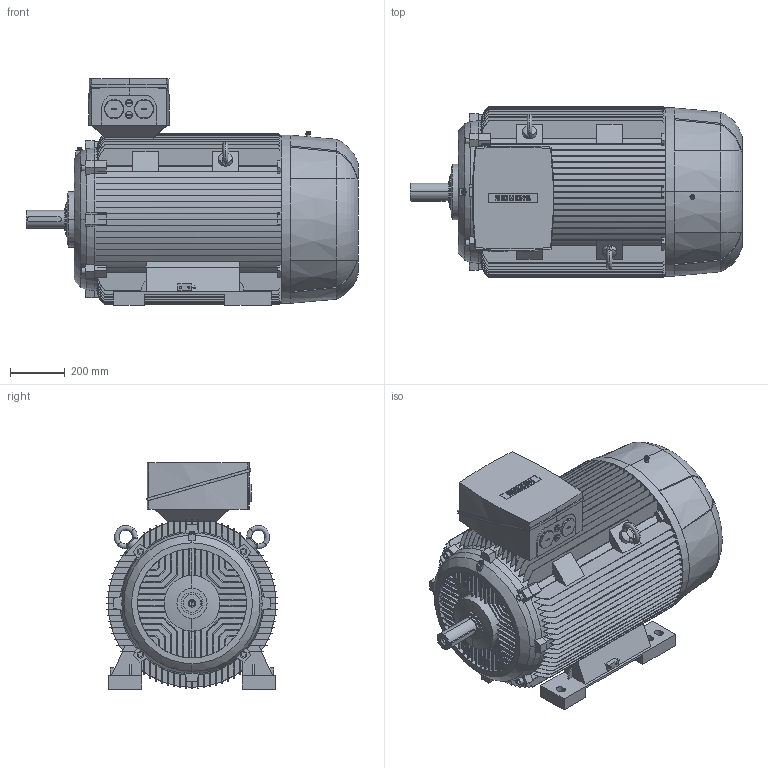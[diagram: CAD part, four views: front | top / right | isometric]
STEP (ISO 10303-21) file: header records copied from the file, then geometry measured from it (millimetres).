
FILE_DESCRIPTION(('STEP AP214'),'1');
FILE_NAME('cctmp_F0877850-D0D3-4E7F-98B5-DB456A6857BC_2020_6_30_13_7_34_39..stp','2020-06-30T11:07:35',('SIEMENS A&D'),('CADClick - www.CADClick.com'),'Spatial InterOp 3D',' ','unknown authorization');
FILE_SCHEMA(('AUTOMOTIVE_DESIGN'));
Length unit declared in the file: millimetre
Products named in the file (1): 1
Bounding box: 1217 x 626 x 830 mm (x, y, z)
Volume: 275450108.2 mm3; surface area: 8150081.7 mm2
Topology: 7 solids, 7 shells, 1637 faces, 4644 edges, 3059 vertices
Faces by surface type: plane 1058, cylinder 335, torus 208, cone 36
Entity records: 78006 total; most frequent: CARTESIAN_POINT 22836, ORIENTED_EDGE 9268, DIRECTION 8301, EDGE_CURVE 4634, VERTEX_POINT 3059, AXIS2_PLACEMENT_3D 2833, LINE 2635, VECTOR 2635
